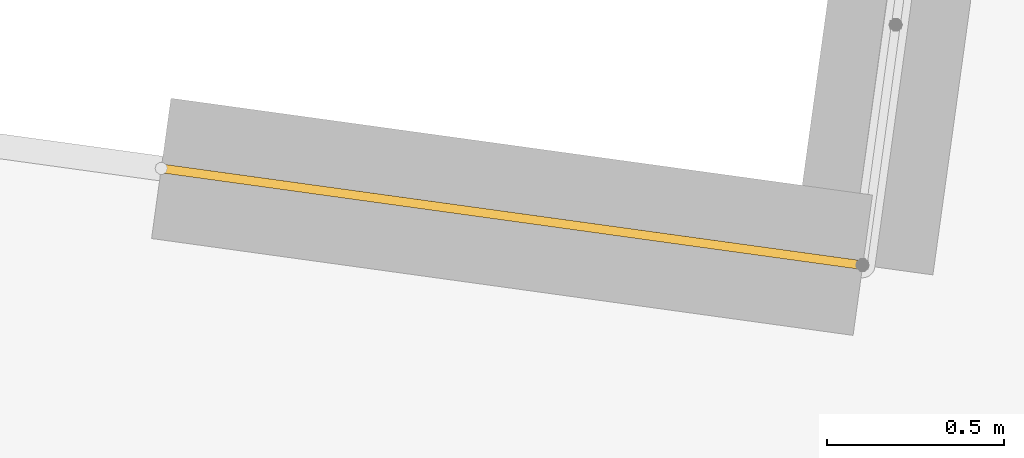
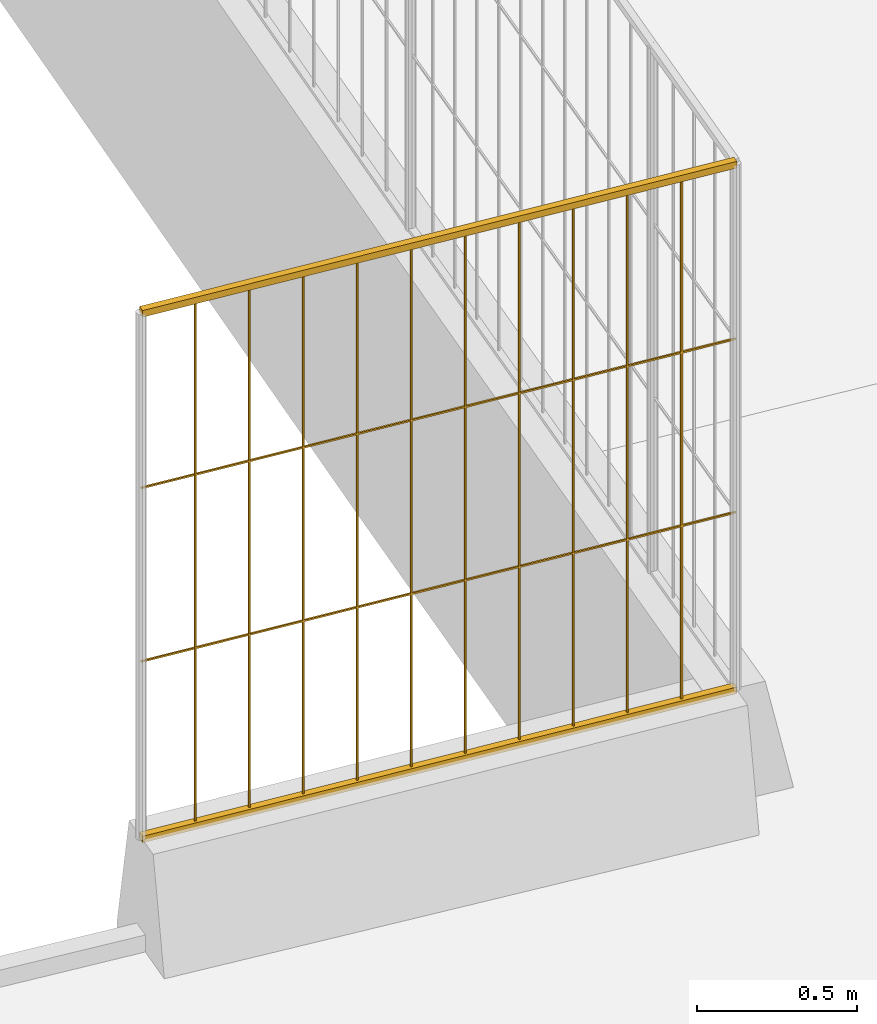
# Not in any storey, part 25 of 75: 1 railing.
"""IFC4 model written with IfcOpenShell, lengths in metres."""

from ifc_helpers import new_model, si_unit, direction, origin, origin_with_axes, place, context, subcontext, project, spatial, triangles, element, save


model = new_model("IFC4")

# Units and contexts
model_context = context("Model", 3, precision=1e-05, world=origin_with_axes(), true_north=direction((0.0, 1.0)))
body_context = subcontext(model_context, "Body", "Model", "MODEL_VIEW")
ifc_project = project(units=[si_unit("AREAUNIT", "SQUARE_METRE"), si_unit("VOLUMEUNIT", "CUBIC_METRE"), si_unit("LENGTHUNIT", "METRE")], contexts=[model_context])

# Site
site_placement = place(None, origin_with_axes())
site = spatial("IfcSite", under=ifc_project, at=site_placement, Name="Parcela industrial Jinhong")

# Railing
railing_placement = place(None, origin())
element("IfcRailing", 1, at=railing_placement, inside=site, Name="Paneles de vallado · Retorno sureste", ObjectType="Valla metálica de ensamblaje", PredefinedType="USERDEFINED", context=body_context, shape_type="Tessellation", body=[
    triangles([(125.133962, 2.652087, 2.396697), (123.152727, 2.925595, 2.356586), (125.13738, 2.676852, 2.396732), (123.156145, 2.95036, 2.356621), (125.13346, 2.652121, 2.421692), (123.152226, 2.925629, 2.381581), (125.136879, 2.676887, 2.421727), (123.155644, 2.950394, 2.381616)], [[2, 4, 1], [5, 2, 1], [1, 4, 3], [3, 5, 1], [2, 8, 4], [6, 2, 5], [6, 8, 2], [4, 8, 3], [7, 5, 3], [3, 8, 7], [7, 6, 5], [8, 6, 7]], closed=True),
    triangles([(125.133962, 2.652087, 4.396697), (123.152727, 2.925595, 4.356586), (125.13738, 2.676852, 4.396732), (123.156145, 2.95036, 4.356621), (125.13346, 2.652121, 4.421692), (123.152226, 2.925629, 4.381581), (125.136879, 2.676887, 4.421727), (123.155644, 2.950394, 4.381616)], [[2, 4, 1], [5, 2, 1], [1, 4, 3], [3, 5, 1], [2, 8, 4], [6, 2, 5], [6, 8, 2], [4, 8, 3], [7, 5, 3], [3, 8, 7], [7, 6, 5], [8, 6, 7]], closed=True),
    triangles([(125.13507, 2.661511, 3.076208), (123.153836, 2.935018, 3.036097), (125.13589, 2.667455, 3.076217), (123.154656, 2.940962, 3.036106), (125.13495, 2.661519, 3.082207), (123.153715, 2.935027, 3.042096), (125.13577, 2.667463, 3.082216), (123.154536, 2.94097, 3.042105)], [[2, 4, 1], [5, 2, 1], [1, 4, 3], [3, 5, 1], [2, 8, 4], [6, 2, 5], [6, 8, 2], [4, 8, 3], [7, 5, 3], [3, 8, 7], [7, 6, 5], [8, 6, 7]], closed=True),
    triangles([(125.13507, 2.661511, 3.736208), (123.153836, 2.935018, 3.696097), (125.13589, 2.667455, 3.736217), (123.154656, 2.940962, 3.696106), (125.13495, 2.661519, 3.742207), (123.153715, 2.935027, 3.702096), (125.13577, 2.667463, 3.742216), (123.154536, 2.94097, 3.702105)], [[2, 4, 1], [5, 2, 1], [1, 4, 3], [3, 5, 1], [2, 8, 4], [6, 2, 5], [6, 8, 2], [4, 8, 3], [7, 5, 3], [3, 8, 7], [7, 6, 5], [8, 6, 7]], closed=True),
    triangles([(124.952308, 2.686351, 2.405566), (124.952308, 2.686351, 4.405566), (124.952308, 2.692351, 2.405566), (124.952308, 2.692351, 4.405566), (124.958308, 2.686351, 2.405566), (124.958308, 2.686351, 4.405566), (124.958308, 2.692351, 2.405566), (124.958308, 2.692351, 4.405566)], [[2, 4, 1], [5, 2, 1], [1, 4, 3], [3, 5, 1], [2, 8, 4], [6, 2, 5], [6, 8, 2], [4, 8, 3], [7, 5, 3], [3, 8, 7], [7, 6, 5], [8, 6, 7]], closed=True),
    triangles([(124.772196, 2.711215, 2.401919), (124.772196, 2.711215, 4.401919), (124.772196, 2.717215, 2.401919), (124.772196, 2.717215, 4.401919), (124.778196, 2.711215, 2.401919), (124.778196, 2.711215, 4.401919), (124.778196, 2.717215, 2.401919), (124.778196, 2.717215, 4.401919)], [[2, 4, 1], [5, 2, 1], [1, 4, 3], [3, 5, 1], [2, 8, 4], [6, 2, 5], [6, 8, 2], [4, 8, 3], [7, 5, 3], [3, 8, 7], [7, 6, 5], [8, 6, 7]], closed=True),
    triangles([(124.592083, 2.73608, 2.398273), (124.592083, 2.73608, 4.398273), (124.592083, 2.74208, 2.398273), (124.592083, 2.74208, 4.398273), (124.598083, 2.73608, 2.398273), (124.598083, 2.73608, 4.398273), (124.598083, 2.74208, 2.398273), (124.598083, 2.74208, 4.398273)], [[2, 4, 1], [5, 2, 1], [1, 4, 3], [3, 5, 1], [2, 8, 4], [6, 2, 5], [6, 8, 2], [4, 8, 3], [7, 5, 3], [3, 8, 7], [7, 6, 5], [8, 6, 7]], closed=True),
    triangles([(124.411971, 2.760944, 2.394626), (124.411971, 2.760944, 4.394626), (124.411971, 2.766944, 2.394626), (124.411971, 2.766944, 4.394626), (124.417971, 2.760944, 2.394626), (124.417971, 2.760944, 4.394626), (124.417971, 2.766944, 2.394626), (124.417971, 2.766944, 4.394626)], [[2, 4, 1], [5, 2, 1], [1, 4, 3], [3, 5, 1], [2, 8, 4], [6, 2, 5], [6, 8, 2], [4, 8, 3], [7, 5, 3], [3, 8, 7], [7, 6, 5], [8, 6, 7]], closed=True),
    triangles([(124.231859, 2.785808, 2.39098), (124.231859, 2.785808, 4.39098), (124.231859, 2.791808, 2.39098), (124.231859, 2.791808, 4.39098), (124.237859, 2.785808, 2.39098), (124.237859, 2.785808, 4.39098), (124.237859, 2.791808, 2.39098), (124.237859, 2.791808, 4.39098)], [[2, 4, 1], [5, 2, 1], [1, 4, 3], [3, 5, 1], [2, 8, 4], [6, 2, 5], [6, 8, 2], [4, 8, 3], [7, 5, 3], [3, 8, 7], [7, 6, 5], [8, 6, 7]], closed=True),
    triangles([(124.051747, 2.810673, 2.387333), (124.051747, 2.810673, 4.387333), (124.051747, 2.816673, 2.387333), (124.051747, 2.816673, 4.387333), (124.057747, 2.810673, 2.387333), (124.057747, 2.810673, 4.387333), (124.057747, 2.816673, 2.387333), (124.057747, 2.816673, 4.387333)], [[2, 4, 1], [5, 2, 1], [1, 4, 3], [3, 5, 1], [2, 8, 4], [6, 2, 5], [6, 8, 2], [4, 8, 3], [7, 5, 3], [3, 8, 7], [7, 6, 5], [8, 6, 7]], closed=True),
    triangles([(123.871635, 2.835537, 2.383687), (123.871635, 2.835537, 4.383687), (123.871635, 2.841537, 2.383687), (123.871635, 2.841537, 4.383687), (123.877635, 2.835537, 2.383687), (123.877635, 2.835537, 4.383687), (123.877635, 2.841537, 2.383687), (123.877635, 2.841537, 4.383687)], [[2, 4, 1], [5, 2, 1], [1, 4, 3], [3, 5, 1], [2, 8, 4], [6, 2, 5], [6, 8, 2], [4, 8, 3], [7, 5, 3], [3, 8, 7], [7, 6, 5], [8, 6, 7]], closed=True),
    triangles([(123.691522, 2.860401, 2.38004), (123.691522, 2.860401, 4.38004), (123.691522, 2.866401, 2.38004), (123.691522, 2.866401, 4.38004), (123.697522, 2.860401, 2.38004), (123.697522, 2.860401, 4.38004), (123.697522, 2.866401, 2.38004), (123.697522, 2.866401, 4.38004)], [[2, 4, 1], [5, 2, 1], [1, 4, 3], [3, 5, 1], [2, 8, 4], [6, 2, 5], [6, 8, 2], [4, 8, 3], [7, 5, 3], [3, 8, 7], [7, 6, 5], [8, 6, 7]], closed=True),
    triangles([(123.51141, 2.885266, 2.376394), (123.51141, 2.885266, 4.376394), (123.51141, 2.891266, 2.376394), (123.51141, 2.891266, 4.376394), (123.51741, 2.885266, 2.376394), (123.51741, 2.885266, 4.376394), (123.51741, 2.891266, 2.376394), (123.51741, 2.891266, 4.376394)], [[2, 4, 1], [5, 2, 1], [1, 4, 3], [3, 5, 1], [2, 8, 4], [6, 2, 5], [6, 8, 2], [4, 8, 3], [7, 5, 3], [3, 8, 7], [7, 6, 5], [8, 6, 7]], closed=True),
    triangles([(123.331298, 2.91013, 2.372747), (123.331298, 2.91013, 4.372747), (123.331298, 2.91613, 2.372747), (123.331298, 2.91613, 4.372747), (123.337298, 2.91013, 2.372747), (123.337298, 2.91013, 4.372747), (123.337298, 2.91613, 2.372747), (123.337298, 2.91613, 4.372747)], [[2, 4, 1], [5, 2, 1], [1, 4, 3], [3, 5, 1], [2, 8, 4], [6, 2, 5], [6, 8, 2], [4, 8, 3], [7, 5, 3], [3, 8, 7], [7, 6, 5], [8, 6, 7]], closed=True),
])

save(model, "model.ifc")
